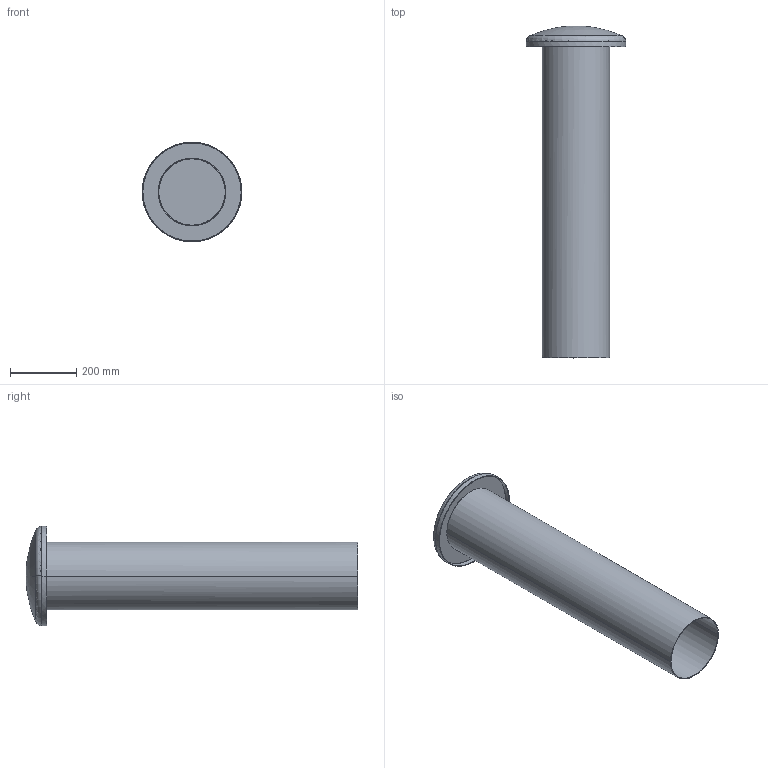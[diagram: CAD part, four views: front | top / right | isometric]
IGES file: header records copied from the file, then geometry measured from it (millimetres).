
Start section:  PTC IGES file: 52221739.igs
Global section: file name: 52221739.igs; native system: Creo Parametric by PTC Inc.; preprocessor: 2023154; author: brma; organization: Unknown; date: 20240327.134916; units: millimetre
Bounding box: 300 x 1000 x 299.82 mm (x, y, z)
Surface area: 1539420.6 mm2 (no closed solid volume)
Topology: 0 solids, 0 shells, 21 faces, 80 edges, 76 vertices
Faces by surface type: revolution 16, bspline 5
